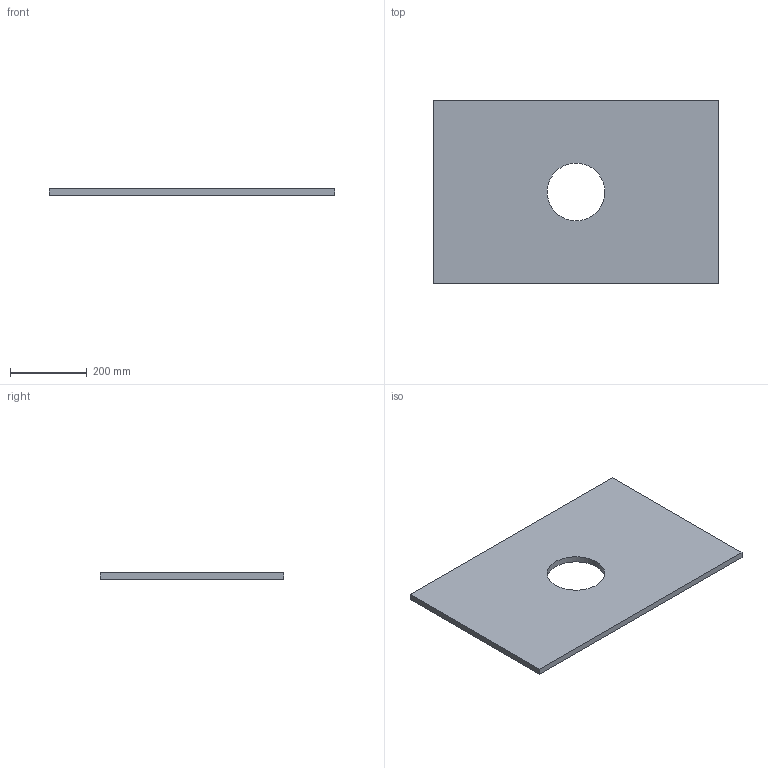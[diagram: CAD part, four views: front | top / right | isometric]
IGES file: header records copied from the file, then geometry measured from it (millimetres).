
Global section: file name: 510025; native system: Autodesk Inventor 2023; preprocessor: unknown; author: JANAN; date: 20241002.131746; units: millimetre
Bounding box: 744 x 477.5 x 16 mm (x, y, z)
Volume: 5401047.2 mm3; surface area: 721814.9 mm2
Topology: 1 solids, 1 shells, 7 faces, 15 edges, 10 vertices
Faces by surface type: bspline 7
